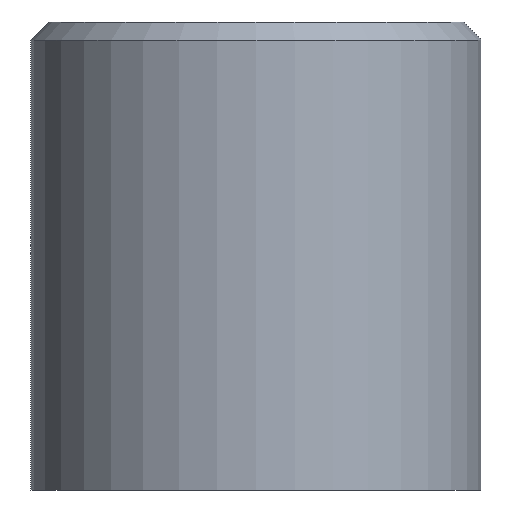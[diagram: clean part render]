
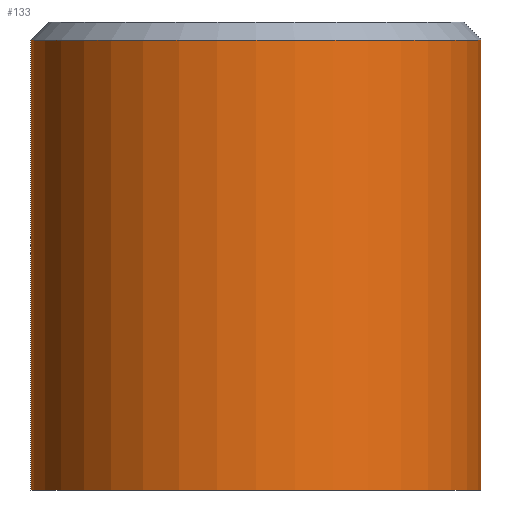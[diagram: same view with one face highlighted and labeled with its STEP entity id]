
A CAD part, front view. The second image highlights one B-rep face of the part: STEP entity #133.
In plain terms, the highlighted cylindrical face has radius 12.5 mm (diameter 25 mm), a full revolution.
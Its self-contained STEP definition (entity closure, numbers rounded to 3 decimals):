
#30=FACE_OUTER_BOUND('',#42,.T.);
#42=EDGE_LOOP('',(#110,#111,#112,#113));
#51=LINE('',#241,#57);
#57=VECTOR('',#202,12.5);
#64=CIRCLE('',#160,12.5);
#66=CIRCLE('',#163,12.5);
#73=VERTEX_POINT('',#232);
#75=VERTEX_POINT('',#237);
#85=EDGE_CURVE('',#73,#73,#64,.T.);
#88=EDGE_CURVE('',#75,#75,#66,.T.);
#89=EDGE_CURVE('',#75,#73,#51,.T.);
#110=ORIENTED_EDGE('',*,*,#88,.F.);
#111=ORIENTED_EDGE('',*,*,#89,.T.);
#112=ORIENTED_EDGE('',*,*,#85,.T.);
#113=ORIENTED_EDGE('',*,*,#89,.F.);
#126=CYLINDRICAL_SURFACE('',#164,12.5);
#133=ADVANCED_FACE('',(#30),#126,.T.);
#160=AXIS2_PLACEMENT_3D('',#233,#191,#192);
#163=AXIS2_PLACEMENT_3D('',#239,#198,#199);
#164=AXIS2_PLACEMENT_3D('',#240,#200,#201);
#191=DIRECTION('center_axis',(0.,0.,1.));
#192=DIRECTION('ref_axis',(1.,0.,0.));
#198=DIRECTION('center_axis',(0.,0.,1.));
#199=DIRECTION('ref_axis',(1.,0.,0.));
#200=DIRECTION('center_axis',(0.,0.,1.));
#201=DIRECTION('ref_axis',(1.,0.,0.));
#202=DIRECTION('',(0.,0.,-1.));
#232=CARTESIAN_POINT('',(-12.5,0.,0.));
#233=CARTESIAN_POINT('Origin',(0.,0.,0.));
#237=CARTESIAN_POINT('',(-12.5,0.,25.));
#239=CARTESIAN_POINT('Origin',(0.,0.,25.));
#240=CARTESIAN_POINT('Origin',(0.,0.,0.));
#241=CARTESIAN_POINT('',(-12.5,0.,0.));
